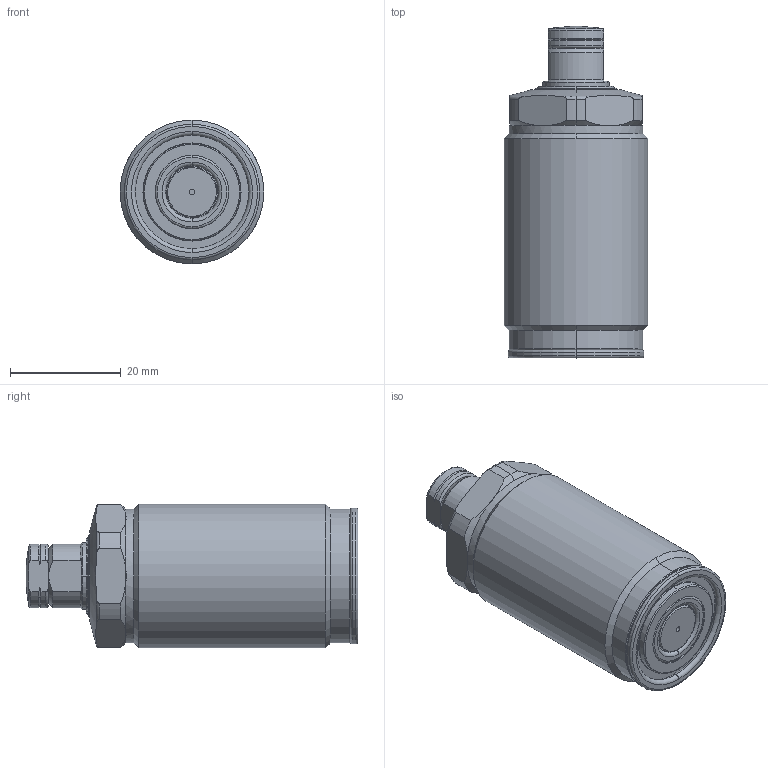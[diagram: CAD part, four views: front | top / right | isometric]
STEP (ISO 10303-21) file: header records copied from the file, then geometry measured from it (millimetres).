
FILE_DESCRIPTION(/* description */ (''),/* implementation_level */ '2;1');
FILE_NAME(/* name */ 'GSC00.stp',/* time_stamp */ '2025-01-10T09:11:27+08:00',/* author */ (''),/* organization */ (''),/* preprocessor_version */ 'ST-DEVELOPER v16.7',/* originating_system */ 'SIEMENS PLM Software NX 12.0',/* authorisation */ '');
FILE_SCHEMA (('AUTOMOTIVE_DESIGN { 1 0 10303 214 3 1 1 1 }'));
Length unit declared in the file: millimetre
Products named in the file (7): GSC00-06; GSC00-04; GSC00-05; GSC00-03; GSC00-02; GSC00-01; GSC00_stp
Assembly tree (6 placements, depth 2):
  GSC00_stp
    GSC00-01
    GSC00-02
    GSC00-03
    GSC00-05
    GSC00-04
    GSC00-06
Bounding box: 26 x 60 x 26 mm (x, y, z)
Volume: 25514.8 mm3; surface area: 7420.4 mm2
Topology: 6 solids, 6 shells, 174 faces, 388 edges, 234 vertices
Faces by surface type: cylinder 52, torus 49, plane 37, cone 34, sphere 2
Full cylindrical faces by diameter (mm): 24.2 x1, 26 x1
Entity records: 5384 total; most frequent: CARTESIAN_POINT 1239, DIRECTION 932, ORIENTED_EDGE 778, AXIS2_PLACEMENT_3D 416, EDGE_CURVE 389, VERTEX_POINT 237, CIRCLE 229, EDGE_LOOP 192
